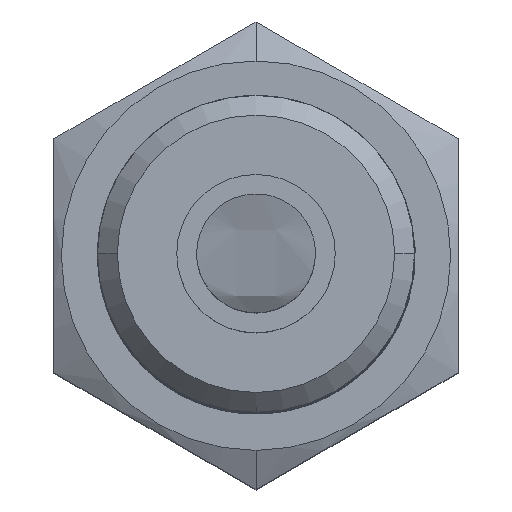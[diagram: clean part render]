
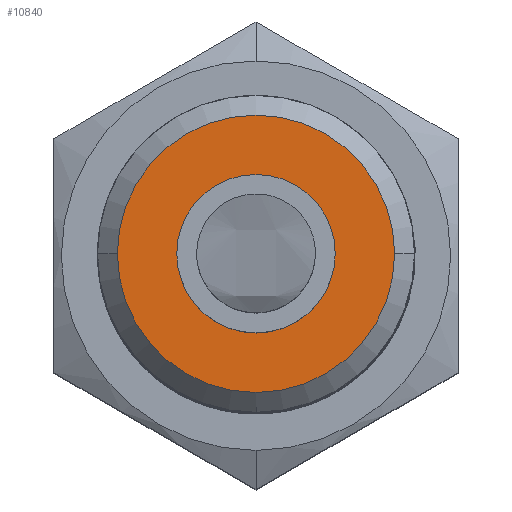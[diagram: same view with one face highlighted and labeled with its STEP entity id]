
A CAD part, top view. The second image highlights one B-rep face of the part: STEP entity #10840.
In plain terms, the highlighted planar face has unit normal (0, 0, 1).
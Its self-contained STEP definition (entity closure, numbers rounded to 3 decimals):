
#5427=CARTESIAN_POINT('',(0.,0.,45.));
#5428=DIRECTION('',(0.,0.,1.));
#5429=DIRECTION('',(1.,0.,0.));
#5430=AXIS2_PLACEMENT_3D('',#5427,#5428,#5429);
#5432=CARTESIAN_POINT('',(0.,0.,45.));
#5433=DIRECTION('',(0.,0.,1.));
#5434=DIRECTION('',(-1.,0.,0.));
#5435=AXIS2_PLACEMENT_3D('',#5432,#5433,#5434);
#5437=CARTESIAN_POINT('',(0.,0.,45.));
#5438=DIRECTION('',(0.,0.,1.));
#5439=DIRECTION('',(1.,0.,0.));
#5440=AXIS2_PLACEMENT_3D('',#5437,#5438,#5439);
#5442=CARTESIAN_POINT('',(0.,0.,45.));
#5443=DIRECTION('',(0.,0.,1.));
#5444=DIRECTION('',(-1.,0.,0.));
#5445=AXIS2_PLACEMENT_3D('',#5442,#5443,#5444);
#5525=CARTESIAN_POINT('',(2.,0.,45.));
#5526=CARTESIAN_POINT('',(-2.,0.,45.));
#5527=VERTEX_POINT('',#5525);
#5528=VERTEX_POINT('',#5526);
#5537=CARTESIAN_POINT('',(-3.5,0.,
45.));
#5538=VERTEX_POINT('',#5537);
#5539=CARTESIAN_POINT('',(3.5,0.,
45.));
#5540=VERTEX_POINT('',#5539);
#10825=CARTESIAN_POINT('',(0.,0.,45.));
#10826=DIRECTION('',(0.,0.,1.));
#10827=DIRECTION('',(1.,0.,0.));
#10828=AXIS2_PLACEMENT_3D('',#10825,#10826,#10827);
#10829=PLANE('',#10828);
#10830=ORIENTED_EDGE('',*,*,#10804,.F.);
#10831=ORIENTED_EDGE('',*,*,#10818,.F.);
#10832=EDGE_LOOP('',(#10830,#10831));
#10833=FACE_OUTER_BOUND('',#10832,.F.);
#10835=ORIENTED_EDGE('',*,*,#10834,.T.);
#10837=ORIENTED_EDGE('',*,*,#10836,.T.);
#10838=EDGE_LOOP('',(#10835,#10837));
#10839=FACE_BOUND('',#10838,.F.);
#5431=CIRCLE('',#5430,2.);
#5436=CIRCLE('',#5435,2.);
#5441=CIRCLE('',#5440,3.5);
#5446=CIRCLE('',#5445,3.5);
#10804=EDGE_CURVE('',#5540,#5538,#5441,.T.);
#10818=EDGE_CURVE('',#5538,#5540,#5446,.T.);
#10834=EDGE_CURVE('',#5527,#5528,#5431,.T.);
#10836=EDGE_CURVE('',#5528,#5527,#5436,.T.);
#10840=ADVANCED_FACE('',(#10833,#10839),#10829,.T.);
